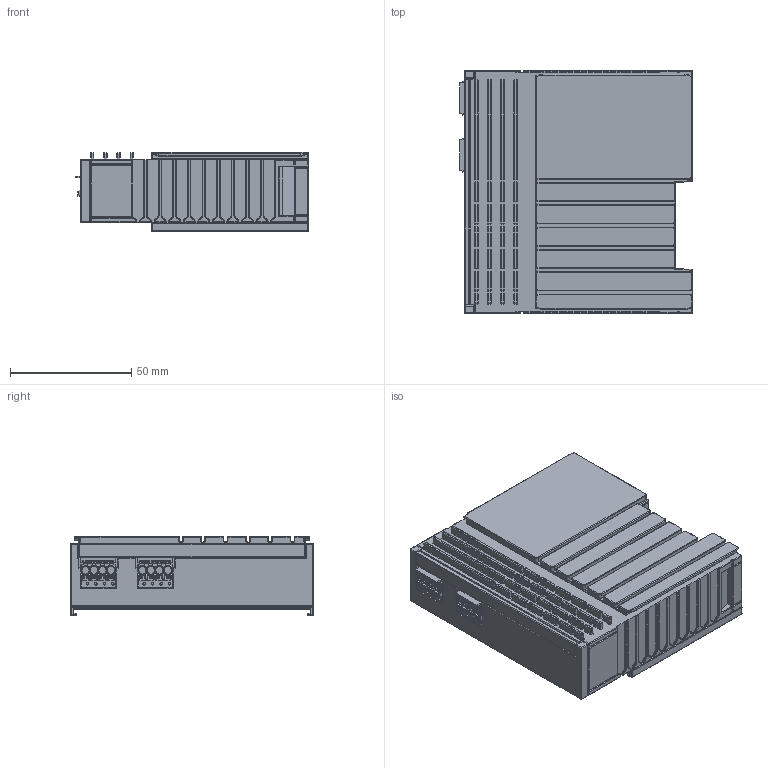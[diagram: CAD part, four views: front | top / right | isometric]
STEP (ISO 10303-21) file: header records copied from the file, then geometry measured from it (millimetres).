
FILE_DESCRIPTION(/* description */ ('EtherCAT-Klemme 30 mm 2 x 4 pin'),/* implementation_level */ '2;1');
FILE_NAME(/* name */ 'E:\EtherCAT_terminal_30mm_2x4pin.stp',/* time_stamp */ '2021-03-31T08:57:04+02:00',/* author */ ('LarsSo'),/* organization */ (''),/* preprocessor_version */ 'ST-DEVELOPER v18.1',/* originating_system */ 'Autodesk Inventor 2020',/* authorisation */ '');
FILE_SCHEMA (('AUTOMOTIVE_DESIGN { 1 0 10303 214 3 1 1 }'));
Products named in the file (1): 0000001969_EtherCAT_terminal_30mm_2x4pin
Bounding box: 95.7 x 100 x 32.7 mm (x, y, z)
Volume: 259331.3 mm3; surface area: 36727.6 mm2
Topology: 1 solids, 1 shells, 2353 faces, 5402 edges, 3107 vertices
Faces by surface type: cylinder 1047, plane 748, sphere 316, torus 218, cone 24
Entity records: 66038 total; most frequent: DIRECTION 12447, CARTESIAN_POINT 11077, ORIENTED_EDGE 10804, EDGE_CURVE 5402, AXIS2_PLACEMENT_3D 4733, VERTEX_POINT 3107, LINE 2981, VECTOR 2981
